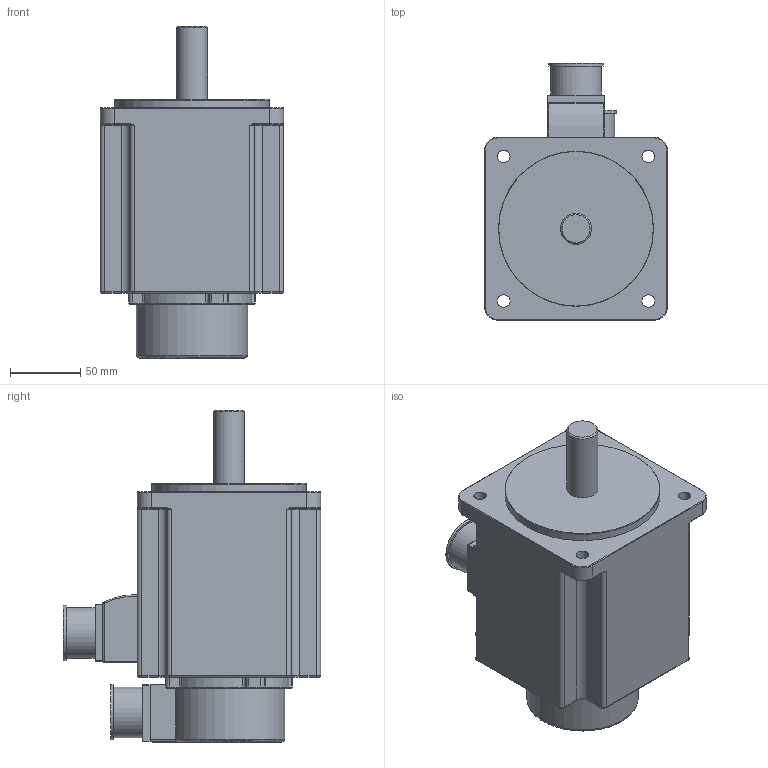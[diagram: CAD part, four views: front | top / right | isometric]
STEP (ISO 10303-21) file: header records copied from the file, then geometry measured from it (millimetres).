
FILE_DESCRIPTION(/* description */ (''),/* implementation_level */ '2;1');
FILE_NAME(/* name */ '130MAL07725.stp',/* time_stamp */ '2019-11-22T13:45:18+08:00',/* author */ (''),/* organization */ (''),/* preprocessor_version */ 'ST-DEVELOPER v16',/* originating_system */ 'SIEMENS PLM Software NX 10.0',/* authorisation */ '');
FILE_SCHEMA (('CONFIG_CONTROL_DESIGN'));
Length unit declared in the file: millimetre
Products named in the file (1): 130MAL07725
Bounding box: 130 x 182.5 x 235.5 mm (x, y, z)
Volume: 2463560.2 mm3; surface area: 131758.9 mm2
Topology: 1 solids, 1 shells, 254 faces, 605 edges, 343 vertices
Faces by surface type: cylinder 117, plane 60, torus 55, sphere 12, bspline 8, cone 2
Full cylindrical faces by diameter (mm): 9 x4, 22 x1, 36 x2, 39 x2, 110 x1
Entity records: 7294 total; most frequent: CARTESIAN_POINT 1396, DIRECTION 1339, ORIENTED_EDGE 1138, EDGE_CURVE 569, AXIS2_PLACEMENT_3D 545, VERTEX_POINT 337, CIRCLE 296, EDGE_LOOP 282
